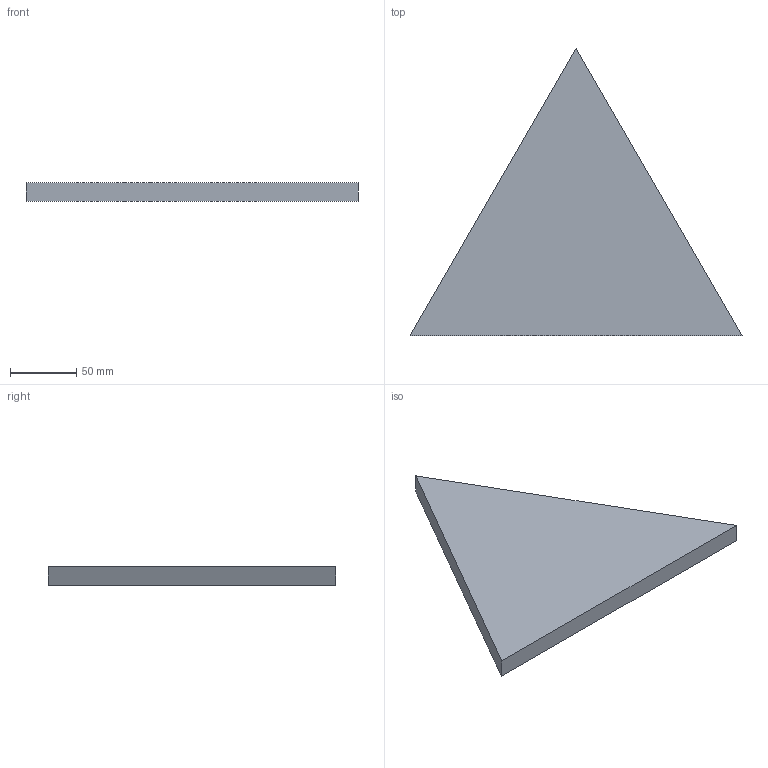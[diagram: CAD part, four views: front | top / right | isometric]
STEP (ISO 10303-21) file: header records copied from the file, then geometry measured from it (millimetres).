
FILE_DESCRIPTION(/* description */ (''),/* implementation_level */ '2;1');
FILE_NAME(/* name */ 'F01_TR~1',/* time_stamp */ '2022-11-14T21:04:28+01:00',/* author */ (''),/* organization */ (''),/* preprocessor_version */ 'ST-DEVELOPER v15',/* originating_system */ '',/* authorisation */ '');
FILE_SCHEMA (('AUTOMOTIVE_DESIGN'));
Length unit declared in the file: millimetre
Products named in the file (1): Document
Bounding box: 250 x 216.51 x 14 mm (x, y, z)
Volume: 378886.1 mm3; surface area: 64626.6 mm2
Topology: 1 solids, 1 shells, 5 faces, 9 edges, 6 vertices
Faces by surface type: plane 5
Entity records: 128 total; most frequent: CARTESIAN_POINT 31, ORIENTED_EDGE 18, EDGE_CURVE 9, B_SPLINE_CURVE_WITH_KNOTS 9, DIRECTION 9, AXIS2_PLACEMENT_3D 7, VERTEX_POINT 6, ADVANCED_FACE 5
